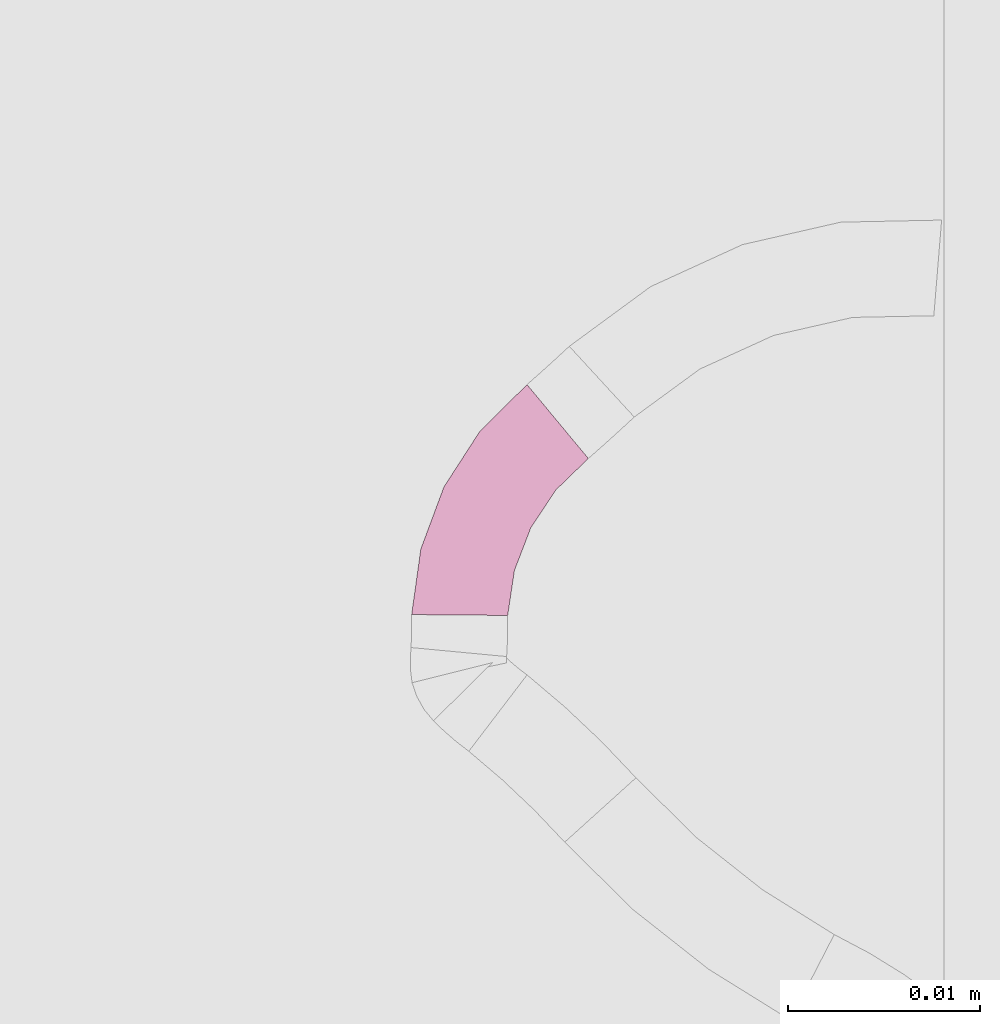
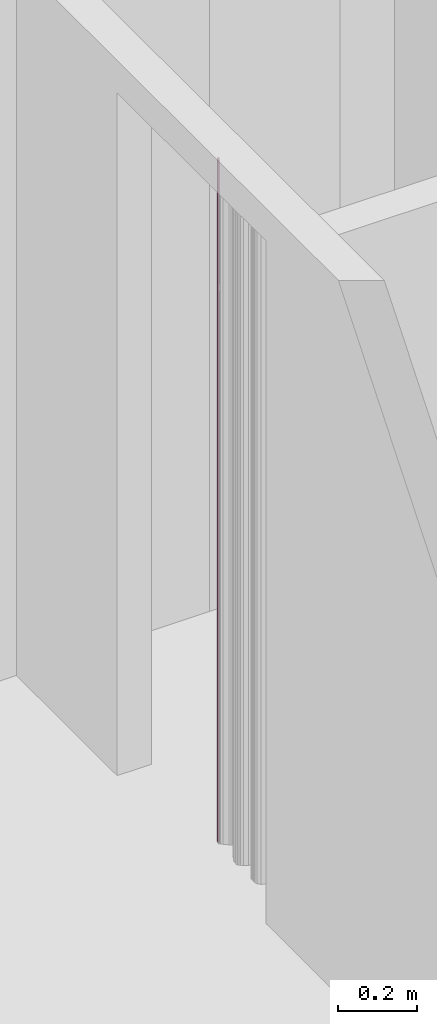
# One storey, part 224 of 418: 1 furnishing.
"""IFC2X3 building model written with IfcOpenShell, lengths in millimetres."""

from ifc_helpers import new_model, entity, si_unit, converted_unit, derived_unit, money_unit, point, direction, frame, frame_2d, origin_with_axes, place, context, subcontext, project, spatial, polyline, circle_curve, parameter, trimmed, segment, composite_curve, outline, extrude, material, type_object, element, save


model = new_model("IFC2X3")

# Units and contexts
model_context = context("Model", 3, precision=0.01, world=origin_with_axes(), true_north=direction((0.0, 1.0)))
body_context = subcontext(model_context, "Body", "Model", "MODEL_VIEW")
ifc_project = project(units=[si_unit("LENGTHUNIT", "METRE", prefix="MILLI"), si_unit("AREAUNIT", "SQUARE_METRE"), si_unit("VOLUMEUNIT", "CUBIC_METRE"), converted_unit("PLANEANGLEUNIT", "DEGREE", entity("IfcPlaneAngleMeasure", 0.0174532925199), si_unit("PLANEANGLEUNIT", "RADIAN"), dimensions=[0, 0, 0, 0, 0, 0, 0]), si_unit("SOLIDANGLEUNIT", "STERADIAN"), money_unit("EUR"), converted_unit("TIMEUNIT", "Year", entity("IfcTimeMeasure", 31556926.0), si_unit("TIMEUNIT", "SECOND"), dimensions=[0, 0, 1, 0, 0, 0, 0]), si_unit("MASSUNIT", "GRAM", prefix="KILO"), si_unit("THERMODYNAMICTEMPERATUREUNIT", "DEGREE_CELSIUS"), si_unit("LUMINOUSINTENSITYUNIT", "LUMEN"), si_unit("ENERGYUNIT", "JOULE", prefix="MEGA"), derived_unit("THERMALCONDUCTANCEUNIT", [(si_unit("POWERUNIT", "WATT"), 1), (si_unit("LENGTHUNIT", "METRE"), -1), (si_unit("THERMODYNAMICTEMPERATUREUNIT", "KELVIN"), -1)]), derived_unit("SPECIFICHEATCAPACITYUNIT", [(si_unit("ENERGYUNIT", "JOULE"), 1), (si_unit("MASSUNIT", "GRAM", prefix="KILO"), -1), (si_unit("THERMODYNAMICTEMPERATUREUNIT", "KELVIN"), -1)]), derived_unit("MASSDENSITYUNIT", [(si_unit("MASSUNIT", "GRAM", prefix="KILO"), 1), (si_unit("VOLUMEUNIT", "CUBIC_METRE"), -1)])], contexts=[model_context])

# Site, building, storey
site_placement = place(None, origin_with_axes())
site = spatial("IfcSite", under=ifc_project, at=site_placement, Name="Paldiski mnt 245/1, Tallinn, Harjumaa", CompositionType="COMPLEX")
building_placement = place(site_placement, origin_with_axes())
building = spatial("IfcBuilding", under=site, at=building_placement, Name="RKAS Hoone üldnimetus (kasutust iseloomustav) -> IFC Project Manager -> SOLIBRI", CompositionType="ELEMENT")
storey_placement = place(building_placement, origin_with_axes())
storey = spatial("IfcBuildingStorey", under=building, at=storey_placement, Name="Esimene korrus", CompositionType="ELEMENT", Elevation=0.0)

# Furnishing
ifc_material = material(Name="KON-00_GENEERILINE - KONSTRUKTSIOON")
furniture_type = type_object("IfcFurnitureType", Name="KON-00_GENEERILINE - KONSTRUKTSIOON 5", AssemblyPlace="NOTDEFINED")
furnishing_placement = place(storey_placement, frame((-45044.1230842, -988.984117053, 0.0), z_axis=(0.0, 0.0, 1.0), x_axis=(-0.782944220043, -0.622091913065, 0.0)))
element("IfcFurnishingElement", 1, at=furnishing_placement, inside=storey, type_object=furniture_type, material=ifc_material, Name="SS-66", context=body_context, shape_type="SweptSolid", body=[
    extrude(outline(composite_curve([segment(trimmed(circle_curve(frame_2d((0.0, 15.9214580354), x_axis=(0.0, -1.0)), 15.9214580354), [point((0.0, 0.0)), parameter(0.0)], [point((12.1587622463, 5.64248305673)), parameter(49.7889388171)], True, "CARTESIAN"), True, "CONTINUOUS"), segment(polyline([(12.1587622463, 5.64248305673), (8.26839231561, 8.78619811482)]), True, "CONTINUOUS"), segment(trimmed(circle_curve(frame_2d((0.0, 15.9214580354), x_axis=(-0.00973381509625, -0.9999526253)), 10.9214580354), [point((8.26839231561, 8.78619811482)), parameter(49.7649624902)], [point((-0.106307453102, 5.0005174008)), parameter(0.0)], False, "CARTESIAN"), True, "CONTINUOUS"), segment(polyline([(-0.106307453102, 5.0005174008), (0.0, 0.0)]), True, "CONTINUOUS")], self_intersect=False)), origin_with_axes(), (0.0, 0.0, 1.0), 2100.0),
])

save(model, "model.ifc")
